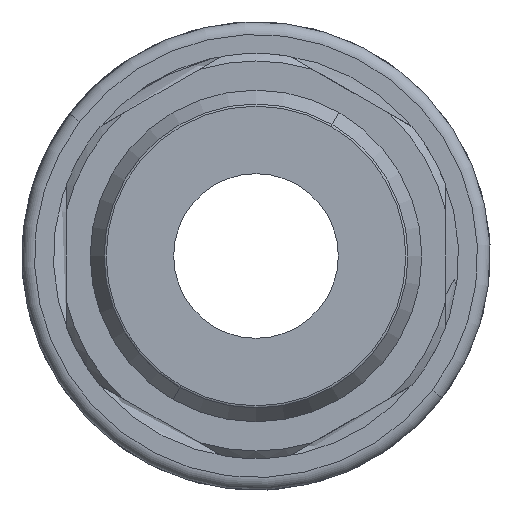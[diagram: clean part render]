
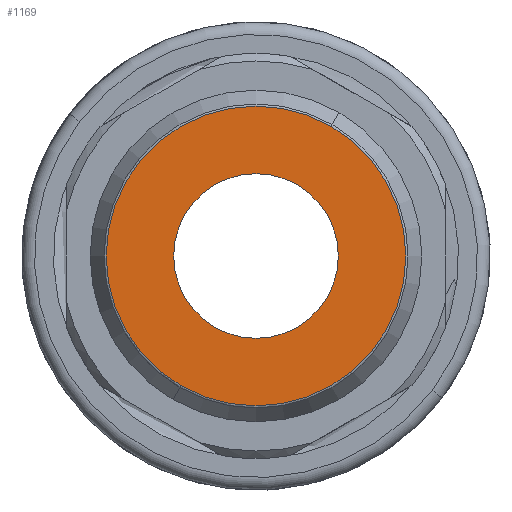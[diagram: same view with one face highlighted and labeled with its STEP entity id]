
A CAD part, front view. The second image highlights one B-rep face of the part: STEP entity #1169.
In plain terms, the highlighted planar face has unit normal (0, -1, 0).
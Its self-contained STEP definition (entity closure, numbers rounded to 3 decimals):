
#1169 = ADVANCED_FACE ( 'NONE', ( #31630, #4226 ), #20020, .F. ) ;
#3413 = AXIS2_PLACEMENT_3D ( 'NONE', #31108, #34238, #16856 ) ;
#4226 = FACE_BOUND ( 'NONE', #10629, .T. ) ;
#5202 = VERTEX_POINT ( 'NONE', #36467 ) ;
#5675 = DIRECTION ( 'NONE',  ( 0., -1., 0. ) ) ;
#5986 = AXIS2_PLACEMENT_3D ( 'NONE', #23092, #26709, #19776 ) ;
#6794 = ORIENTED_EDGE ( 'NONE', *, *, #37932, .T. ) ;
#6824 = CARTESIAN_POINT ( 'NONE',  ( -9.894, 0., -16.578 ) ) ;
#9110 = DIRECTION ( 'NONE',  ( 0.5, 0., 0.866 ) ) ;
#9248 = CARTESIAN_POINT ( 'NONE',  ( -9.894, 0., -16.578 ) ) ;
#10629 = EDGE_LOOP ( 'NONE', ( #26065, #26510 ) ) ;
#12466 = CARTESIAN_POINT ( 'NONE',  ( -8.269, 0., -13.764 ) ) ;
#16080 = CIRCLE ( 'NONE', #5986, 5.915 ) ;
#16856 = DIRECTION ( 'NONE',  ( 0.5, 0., 0.866 ) ) ;
#19776 = DIRECTION ( 'NONE',  ( 0.5, 0., 0.866 ) ) ;
#20020 = PLANE ( 'NONE',  #36300 ) ;
#20359 = CIRCLE ( 'NONE', #3413, 3.25 ) ;
#20868 = VERTEX_POINT ( 'NONE', #12466 ) ;
#21229 = ORIENTED_EDGE ( 'NONE', *, *, #43471, .T. ) ;
#21696 = CARTESIAN_POINT ( 'NONE',  ( -9.894, 0., -16.578 ) ) ;
#23092 = CARTESIAN_POINT ( 'NONE',  ( -9.894, 0., -16.578 ) ) ;
#23211 = AXIS2_PLACEMENT_3D ( 'NONE', #21696, #28769, #35467 ) ;
#24715 = VERTEX_POINT ( 'NONE', #41416 ) ;
#25118 = EDGE_CURVE ( 'NONE', #20868, #5202, #38943, .T. ) ;
#26065 = ORIENTED_EDGE ( 'NONE', *, *, #41695, .T. ) ;
#26510 = ORIENTED_EDGE ( 'NONE', *, *, #25118, .T. ) ;
#26709 = DIRECTION ( 'NONE',  ( 0., -1., 0. ) ) ;
#28769 = DIRECTION ( 'NONE',  ( 0., 1., 0. ) ) ;
#30573 = CIRCLE ( 'NONE', #40168, 5.915 ) ;
#30825 = DIRECTION ( 'NONE',  ( 0., 1., 0. ) ) ;
#31108 = CARTESIAN_POINT ( 'NONE',  ( -9.894, 0., -16.578 ) ) ;
#31630 = FACE_OUTER_BOUND ( 'NONE', #37358, .T. ) ;
#34238 = DIRECTION ( 'NONE',  ( 0., 1., 0. ) ) ;
#35467 = DIRECTION ( 'NONE',  ( 0.5, 0., 0.866 ) ) ;
#36300 = AXIS2_PLACEMENT_3D ( 'NONE', #6824, #30825, #43952 ) ;
#36467 = CARTESIAN_POINT ( 'NONE',  ( -11.519, 0., -19.393 ) ) ;
#37358 = EDGE_LOOP ( 'NONE', ( #6794, #21229 ) ) ;
#37932 = EDGE_CURVE ( 'NONE', #38991, #24715, #16080, .T. ) ;
#38943 = CIRCLE ( 'NONE', #23211, 3.25 ) ;
#38991 = VERTEX_POINT ( 'NONE', #41772 ) ;
#40168 = AXIS2_PLACEMENT_3D ( 'NONE', #9248, #5675, #9110 ) ;
#41416 = CARTESIAN_POINT ( 'NONE',  ( -12.852, 0., -21.701 ) ) ;
#41695 = EDGE_CURVE ( 'NONE', #5202, #20868, #20359, .T. ) ;
#41772 = CARTESIAN_POINT ( 'NONE',  ( -6.937, 0., -11.456 ) ) ;
#43471 = EDGE_CURVE ( 'NONE', #24715, #38991, #30573, .T. ) ;
#43952 = DIRECTION ( 'NONE',  ( 0.5, 0., 0.866 ) ) ;
